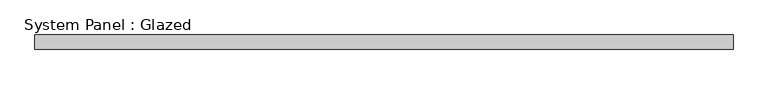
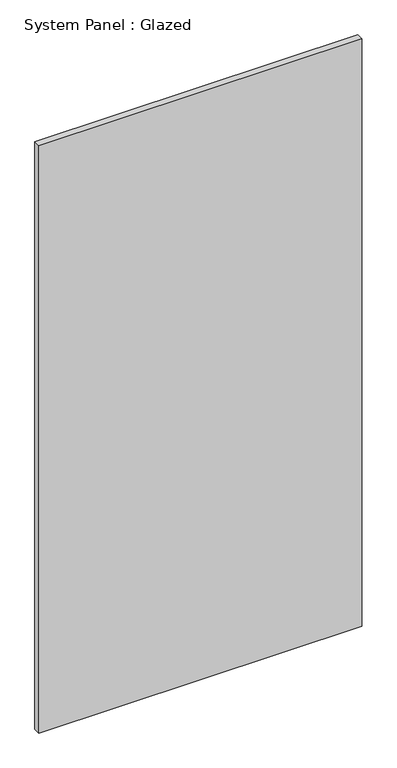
"""IFC4 building model written with IfcOpenShell, lengths in millimetres: plate geometry, System Panel : Glazed."""

import ifcopenshell
import ifcopenshell.guid

model = None  # the IFC model being written
_history = None  # IfcOwnerHistory: only IFC2X3 demands one
_inside = {}  # id of a spatial element -> (the spatial element, [elements in it])
_under = {}  # id of a project, library or spatial element -> (it, [spatial elements below it])
_declared = {}  # id of a project -> (the project, [libraries it declares])
_typed = {}  # id of a type object -> (the type object, [elements of that type])
_made_of = {}  # id of a material, layer set ... -> (it, [elements and type objects made of it])


def new_model(schema):
    """Start an empty IFC model of exactly this schema.

    Asked for "IFC4X3", IfcOpenShell would pick the latest addendum, in which some entities
    have other attributes; the version numbers below select the first issue.
    IFC2X3 requires an IfcOwnerHistory on every rooted entity: one is made here for all.
    """
    global model, _history
    if schema == "IFC4X3":
        model = ifcopenshell.file(schema_version=(4, 3, 0, 0))
    else:
        model = ifcopenshell.file(schema=schema)
    _inside.clear()
    _under.clear()
    _declared.clear()
    _typed.clear()
    _made_of.clear()
    _history = None
    if model.schema == "IFC2X3":
        org = make("IfcOrganization", Name="unknown")
        user = make(
            "IfcPersonAndOrganization",
            ThePerson=make("IfcPerson", FamilyName="unknown"),
            TheOrganization=org,
        )
        app = make(
            "IfcApplication",
            ApplicationDeveloper=org,
            Version="unknown",
            ApplicationFullName="unknown",
            ApplicationIdentifier="unknown",
        )
        _history = make(
            "IfcOwnerHistory",
            OwningUser=user,
            OwningApplication=app,
            ChangeAction="ADDED",
            CreationDate=0,
        )
    return model


def make(cls, **values):
    """One entity of the class cls with the attributes given. An attribute that is None is left unset."""
    return model.create_entity(
        cls, **{name: value for name, value in values.items() if value is not None}
    )


def rooted(cls, **values):
    """An entity with a GlobalId (a new one), such as an element, a storey or a relation."""
    return make(cls, GlobalId=ifcopenshell.guid.new(), OwnerHistory=_history, **values)


def si_unit(unit_type, name, prefix=None):
    """IfcSIUnit, for example si_unit("LENGTHUNIT", "METRE", prefix="MILLI")."""
    return make("IfcSIUnit", UnitType=unit_type, Prefix=prefix, Name=name)


def assignment(units):
    """IfcUnitAssignment: the units of a project."""
    return None if units is None else make("IfcUnitAssignment", Units=units)


def point(xyz):
    """IfcCartesianPoint."""
    return None if xyz is None else make("IfcCartesianPoint", Coordinates=xyz)


def direction(xyz):
    """IfcDirection."""
    return None if xyz is None else make("IfcDirection", DirectionRatios=xyz)


def frame(location, z_axis=None, x_axis=None):
    """IfcAxis2Placement3D, a coordinate frame: its origin and axes. An axis left out is left unset."""
    return make(
        "IfcAxis2Placement3D",
        Location=point(location),
        Axis=direction(z_axis),
        RefDirection=direction(x_axis),
    )


def origin():
    """The frame at (0, 0, 0) with its axes left unset."""
    return frame((0.0, 0.0, 0.0))


def origin_with_axes():
    """The frame at (0, 0, 0) with the z axis (0, 0, 1) and the x axis (1, 0, 0) written out."""
    return frame((0.0, 0.0, 0.0), z_axis=(0.0, 0.0, 1.0), x_axis=(1.0, 0.0, 0.0))


def place(relative_to, where):
    """IfcLocalPlacement: puts the frame where relative to a parent placement (None: the world)."""
    return make(
        "IfcLocalPlacement", PlacementRelTo=relative_to, RelativePlacement=where
    )


def context(
    kind, dimensions, precision=None, world=None, true_north=None, identifier=None
):
    """IfcGeometricRepresentationContext, for example the 3D "Model" context."""
    return make(
        "IfcGeometricRepresentationContext",
        ContextIdentifier=identifier,
        ContextType=kind,
        CoordinateSpaceDimension=dimensions,
        Precision=precision,
        WorldCoordinateSystem=world,
        TrueNorth=true_north,
    )


def project(units=None, contexts=None):
    """IfcProject with its units and contexts."""
    return rooted(
        "IfcProject",
        Name="project",
        RepresentationContexts=contexts,
        UnitsInContext=assignment(units),
    )


def spatial(cls, under=None, at=None, **own):
    """A site, building, storey or space (cls), placed at a placement, below another one or the project."""
    s = rooted(cls, ObjectPlacement=at, **own)
    if under is not None:
        _under.setdefault(under.id(), (under, []))[1].append(s)
    return s


def polyline(points):
    """IfcPolyline through the points."""
    return make("IfcPolyline", Points=[point(p) for p in points])


def outline(outer, holes=None, kind="AREA"):
    """IfcArbitraryClosedProfileDef: a profile drawn as a closed curve; with holes, ...WithVoids."""
    if holes is None:
        return make("IfcArbitraryClosedProfileDef", ProfileType=kind, OuterCurve=outer)
    return make(
        "IfcArbitraryProfileDefWithVoids",
        ProfileType=kind,
        OuterCurve=outer,
        InnerCurves=holes,
    )


def extrude(swept, where, along, depth):
    """IfcExtrudedAreaSolid: the profile swept, set in the frame where, extruded along a direction by depth."""
    return make(
        "IfcExtrudedAreaSolid",
        SweptArea=swept,
        Position=where,
        ExtrudedDirection=direction(along),
        Depth=depth,
    )


def shape(context_of_items, identifier, shape_type, items):
    """IfcShapeRepresentation: the items that make up one representation, for example the "Body"."""
    return make(
        "IfcShapeRepresentation",
        ContextOfItems=context_of_items,
        RepresentationIdentifier=identifier,
        RepresentationType=shape_type,
        Items=items,
    )


def source(mapping_origin, context_of_items, identifier, shape_type, items):
    """IfcRepresentationMap: a shape defined once, which mapped items show again and again."""
    return make(
        "IfcRepresentationMap",
        MappingOrigin=mapping_origin,
        MappedRepresentation=shape(context_of_items, identifier, shape_type, items),
    )


def transform(
    local_origin,
    x_axis=None,
    y_axis=None,
    z_axis=None,
    scale=None,
    scale2=None,
    scale3=None,
    uniform=True,
):
    """IfcCartesianTransformationOperator3D, or its non-uniform kind. x_axis, y_axis, z_axis: its Axis1, 2, 3."""
    if uniform:
        return make(
            "IfcCartesianTransformationOperator3D",
            Axis1=direction(x_axis),
            Axis2=direction(y_axis),
            LocalOrigin=point(local_origin),
            Scale=scale,
            Axis3=direction(z_axis),
        )
    return make(
        "IfcCartesianTransformationOperator3DnonUniform",
        Axis1=direction(x_axis),
        Axis2=direction(y_axis),
        LocalOrigin=point(local_origin),
        Scale=scale,
        Axis3=direction(z_axis),
        Scale2=scale2,
        Scale3=scale3,
    )


def mapped(mapping_source, mapping_target):
    """IfcMappedItem: shows the shape of a source again, moved by a transform."""
    return make(
        "IfcMappedItem", MappingSource=mapping_source, MappingTarget=mapping_target
    )


def made_of(thing, what):
    """Note that an element or type object is made of a material, layer set ...; save() writes the relation."""
    if what is not None:
        _made_of.setdefault(what.id(), (what, []))[1].append(thing)
    return thing


def element(
    cls,
    number,
    at=None,
    inside=None,
    cuts=None,
    type_object=None,
    material=None,
    context=None,
    identifier="Body",
    shape_type=None,
    held_by="IfcProductDefinitionShape",
    body=None,
    shapes=None,
    **own,
):
    """One element of the class cls, such as IfcWall. Its Tag is "e" and its number.

    at: its placement. inside: the storey or other place that contains it. cuts: it is an
    opening in that element (IfcRelVoidsElement). A single representation is given by context,
    identifier, shape_type and body (its items); several are given by shapes. held_by: the class
    of the entity that holds the representations. save() writes the other relations.
    """
    e = rooted(cls, Tag="e%d" % number, ObjectPlacement=at, **own)
    if body is not None:
        shapes = [shape(context, identifier, shape_type, body)]
    if shapes is not None:
        e.Representation = make(held_by, Representations=shapes)
    if inside is not None:
        _inside.setdefault(inside.id(), (inside, []))[1].append(e)
    if cuts is not None:
        rooted(
            "IfcRelVoidsElement", RelatingBuildingElement=cuts, RelatedOpeningElement=e
        )
    if type_object is not None:
        _typed.setdefault(type_object.id(), (type_object, []))[1].append(e)
    return made_of(e, material)


def aggregate(whole, parts):
    """IfcRelAggregates: a whole, such as a stair, and the parts it consists of."""
    return rooted("IfcRelAggregates", RelatingObject=whole, RelatedObjects=parts)


def save(model, path):
    """Write the relations noted so far, then the file.

    IfcRelAggregates (storeys below a building ...), IfcRelContainedInSpatialStructure (elements
    in a storey), IfcRelDefinesByType, IfcRelAssociatesMaterial and IfcRelDeclares: one each for
    every whole, place, type object, material and project.
    """
    for whole, parts in _under.values():
        aggregate(whole, parts)
    for where, things in _inside.values():
        rooted(
            "IfcRelContainedInSpatialStructure",
            RelatedElements=things,
            RelatingStructure=where,
        )
    for kind, things in _typed.values():
        rooted("IfcRelDefinesByType", RelatedObjects=things, RelatingType=kind)
    for what, things in _made_of.values():
        rooted("IfcRelAssociatesMaterial", RelatedObjects=things, RelatingMaterial=what)
    for by, libraries in _declared.values():
        rooted("IfcRelDeclares", RelatingContext=by, RelatedDefinitions=libraries)
    model.write(path)


def system_panel_glazed_3d200b4f(model_context):
    return source(origin(), model_context, "Body", "SweptSolid", [
        extrude(outline(polyline([(609.6, -44.45), (-609.6, -44.45), (-609.6, -19.05), (609.6, -19.05), (609.6, -44.45)])), origin_with_axes(), (0.0, 0.0, 1.0), 2343.15),
    ])


if __name__ == "__main__":
    model = new_model("IFC4")
    model_context = context("Model", 3, world=origin())
    ifc_project = project(units=[si_unit("LENGTHUNIT", "METRE", prefix="MILLI")], contexts=[model_context])
    site = spatial("IfcSite", under=ifc_project)
    building = spatial("IfcBuilding", under=site)
    placement = place(None, origin())
    system_panel_glazed_shape = system_panel_glazed_3d200b4f(model_context)
    element("IfcPlate", 1, ObjectType="System Panel : Glazed", at=placement, inside=building, context=model_context, shape_type="MappedRepresentation", body=[
        mapped(system_panel_glazed_shape, transform((0.0, 0.0, 0.0), x_axis=(1.0, 0.0, 0.0), y_axis=(0.0, 1.0, 0.0), z_axis=(0.0, 0.0, 1.0))),
    ])
    save(model, "model.ifc")
